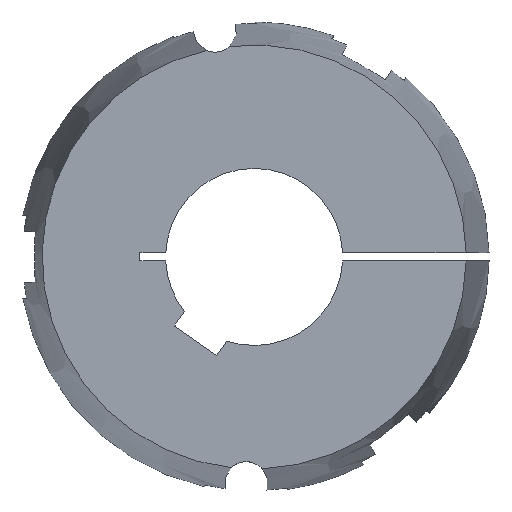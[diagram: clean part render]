
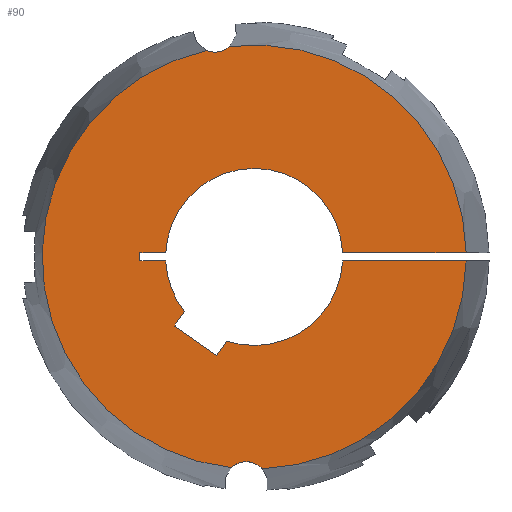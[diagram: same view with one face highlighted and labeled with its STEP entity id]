
A CAD part, left-side view. The second image highlights one B-rep face of the part: STEP entity #90.
In plain terms, the highlighted planar face has unit normal (-1, 0, 0).
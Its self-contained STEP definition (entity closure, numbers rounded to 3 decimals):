
#90 = ADVANCED_FACE( '', ( #140 ), #141, .F. );
#140 = FACE_OUTER_BOUND( '', #208, .T. );
#141 = PLANE( '', #209 );
#208 = EDGE_LOOP( '', ( #369, #370, #371, #372, #373, #374, #375, #376, #377, #378, #379, #380, #381, #382, #383, #384 ) );
#209 = AXIS2_PLACEMENT_3D( '', #385, #386, #387 );
#369 = ORIENTED_EDGE( '', *, *, #548, .F. );
#370 = ORIENTED_EDGE( '', *, *, #601, .F. );
#371 = ORIENTED_EDGE( '', *, *, #570, .T. );
#372 = ORIENTED_EDGE( '', *, *, #583, .T. );
#373 = ORIENTED_EDGE( '', *, *, #581, .T. );
#374 = ORIENTED_EDGE( '', *, *, #578, .T. );
#375 = ORIENTED_EDGE( '', *, *, #587, .T. );
#376 = ORIENTED_EDGE( '', *, *, #602, .T. );
#377 = ORIENTED_EDGE( '', *, *, #603, .T. );
#378 = ORIENTED_EDGE( '', *, *, #604, .T. );
#379 = ORIENTED_EDGE( '', *, *, #605, .T. );
#380 = ORIENTED_EDGE( '', *, *, #606, .T. );
#381 = ORIENTED_EDGE( '', *, *, #572, .T. );
#382 = ORIENTED_EDGE( '', *, *, #607, .F. );
#383 = ORIENTED_EDGE( '', *, *, #551, .F. );
#384 = ORIENTED_EDGE( '', *, *, #608, .F. );
#385 = CARTESIAN_POINT( '', ( -102., 0., 0. ) );
#386 = DIRECTION( '', ( 1., 0., 0. ) );
#387 = DIRECTION( '', ( 0., 1., 0. ) );
#548 = EDGE_CURVE( '', #649, #651, #652, .F. );
#551 = EDGE_CURVE( '', #655, #657, #658, .F. );
#570 = EDGE_CURVE( '', #693, #691, #694, .T. );
#572 = EDGE_CURVE( '', #696, #697, #698, .T. );
#578 = EDGE_CURVE( '', #709, #707, #710, .T. );
#581 = EDGE_CURVE( '', #714, #709, #715, .T. );
#583 = EDGE_CURVE( '', #691, #714, #717, .T. );
#587 = EDGE_CURVE( '', #707, #721, #723, .T. );
#601 = EDGE_CURVE( '', #693, #649, #745, .T. );
#602 = EDGE_CURVE( '', #721, #746, #747, .T. );
#603 = EDGE_CURVE( '', #746, #748, #749, .T. );
#604 = EDGE_CURVE( '', #748, #750, #751, .T. );
#605 = EDGE_CURVE( '', #750, #752, #753, .T. );
#606 = EDGE_CURVE( '', #752, #696, #754, .T. );
#607 = EDGE_CURVE( '', #657, #697, #755, .T. );
#608 = EDGE_CURVE( '', #651, #655, #756, .T. );
#649 = VERTEX_POINT( '', #815 );
#651 = VERTEX_POINT( '', #828 );
#652 = CIRCLE( '', #829, 6.75 );
#655 = VERTEX_POINT( '', #843 );
#657 = VERTEX_POINT( '', #856 );
#658 = CIRCLE( '', #857, 6.75 );
#691 = VERTEX_POINT( '', #924 );
#693 = VERTEX_POINT( '', #927 );
#694 = LINE( '', #928, #929 );
#696 = VERTEX_POINT( '', #937 );
#697 = VERTEX_POINT( '', #938 );
#698 = LINE( '', #939, #940 );
#707 = VERTEX_POINT( '', #958 );
#709 = VERTEX_POINT( '', #961 );
#710 = LINE( '', #962, #963 );
#714 = VERTEX_POINT( '', #969 );
#715 = LINE( '', #970, #971 );
#717 = CIRCLE( '', #974, 27.5 );
#721 = VERTEX_POINT( '', #979 );
#723 = LINE( '', #982, #983 );
#745 = CIRCLE( '', #1008, 65.867 );
#746 = VERTEX_POINT( '', #1009 );
#747 = CIRCLE( '', #1010, 27.5 );
#748 = VERTEX_POINT( '', #1011 );
#749 = LINE( '', #1012, #1013 );
#750 = VERTEX_POINT( '', #1014 );
#751 = LINE( '', #1015, #1016 );
#752 = VERTEX_POINT( '', #1017 );
#753 = LINE( '', #1018, #1019 );
#754 = CIRCLE( '', #1020, 27.5 );
#755 = CIRCLE( '', #1021, 65.867 );
#756 = CIRCLE( '', #1022, 65.867 );
#815 = CARTESIAN_POINT( '', ( -102., -2.538, -65.819 ) );
#828 = CARTESIAN_POINT( '', ( -102., 7.121, -65.481 ) );
#829 = AXIS2_PLACEMENT_3D( '', #1188, #1189, #1190 );
#843 = CARTESIAN_POINT( '', ( -102., 14.891, 64.162 ) );
#856 = CARTESIAN_POINT( '', ( -102., 7.611, 65.426 ) );
#857 = AXIS2_PLACEMENT_3D( '', #1191, #1192, #1193 );
#924 = CARTESIAN_POINT( '', ( -102., -27.472, -1.25 ) );
#927 = CARTESIAN_POINT( '', ( -102., -65.856, -1.25 ) );
#928 = CARTESIAN_POINT( '', ( -102., -73., -1.25 ) );
#929 = VECTOR( '', #1223, 1000. );
#937 = CARTESIAN_POINT( '', ( -102., -27.472, 1.25 ) );
#938 = CARTESIAN_POINT( '', ( -102., -65.856, 1.25 ) );
#939 = CARTESIAN_POINT( '', ( -102., 0., 1.25 ) );
#940 = VECTOR( '', #1224, 1000. );
#958 = CARTESIAN_POINT( '', ( -102., 24.793, -21.46 ) );
#961 = CARTESIAN_POINT( '', ( -102., 11.687, -30.638 ) );
#962 = CARTESIAN_POINT( '', ( -102., 11.687, -30.638 ) );
#963 = VECTOR( '', #1229, 1000. );
#969 = CARTESIAN_POINT( '', ( -102., 8.538, -26.141 ) );
#970 = CARTESIAN_POINT( '', ( -102., 8.538, -26.141 ) );
#971 = VECTOR( '', #1232, 1000. );
#974 = AXIS2_PLACEMENT_3D( '', #1234, #1235, #1236 );
#979 = CARTESIAN_POINT( '', ( -102., 21.644, -16.964 ) );
#982 = CARTESIAN_POINT( '', ( -102., 24.793, -21.46 ) );
#983 = VECTOR( '', #1242, 1000. );
#1008 = AXIS2_PLACEMENT_3D( '', #1276, #1277, #1278 );
#1009 = CARTESIAN_POINT( '', ( -102., 27.472, -1.25 ) );
#1010 = AXIS2_PLACEMENT_3D( '', #1279, #1280, #1281 );
#1011 = CARTESIAN_POINT( '', ( -102., 35.5, -1.25 ) );
#1012 = CARTESIAN_POINT( '', ( -102., 0., -1.25 ) );
#1013 = VECTOR( '', #1282, 1000. );
#1014 = CARTESIAN_POINT( '', ( -102., 35.5, 1.25 ) );
#1015 = CARTESIAN_POINT( '', ( -102., 35.5, -1.25 ) );
#1016 = VECTOR( '', #1283, 1000. );
#1017 = CARTESIAN_POINT( '', ( -102., 27.472, 1.25 ) );
#1018 = CARTESIAN_POINT( '', ( -102., 35.5, 1.25 ) );
#1019 = VECTOR( '', #1284, 1000. );
#1020 = AXIS2_PLACEMENT_3D( '', #1285, #1286, #1287 );
#1021 = AXIS2_PLACEMENT_3D( '', #1288, #1289, #1290 );
#1022 = AXIS2_PLACEMENT_3D( '', #1291, #1292, #1293 );
#1188 = CARTESIAN_POINT( '', ( -102., 2.456, -70.36 ) );
#1189 = DIRECTION( '', ( 1., 0., 0. ) );
#1190 = DIRECTION( '', ( 0., 1., 0. ) );
#1191 = CARTESIAN_POINT( '', ( -102., 12.218, 70.36 ) );
#1192 = DIRECTION( '', ( 1., 0., 0. ) );
#1193 = DIRECTION( '', ( 0., 1., 0. ) );
#1223 = DIRECTION( '', ( 0., 1., 0. ) );
#1224 = DIRECTION( '', ( 0., -1., 0. ) );
#1229 = DIRECTION( '', ( 0., 0.819, 0.574 ) );
#1232 = DIRECTION( '', ( 0., 0.574, -0.819 ) );
#1234 = CARTESIAN_POINT( '', ( -102., 0., 0. ) );
#1235 = DIRECTION( '', ( 1., 0., 0. ) );
#1236 = DIRECTION( '', ( 0., 0., -1. ) );
#1242 = DIRECTION( '', ( 0., -0.574, 0.819 ) );
#1276 = CARTESIAN_POINT( '', ( -102., 0., 0. ) );
#1277 = DIRECTION( '', ( 1., 0., 0. ) );
#1278 = DIRECTION( '', ( 0., 1., 0. ) );
#1279 = CARTESIAN_POINT( '', ( -102., 0., 0. ) );
#1280 = DIRECTION( '', ( 1., 0., 0. ) );
#1281 = DIRECTION( '', ( 0., 0., -1. ) );
#1282 = DIRECTION( '', ( 0., 1., 0. ) );
#1283 = DIRECTION( '', ( 0., 0., 1. ) );
#1284 = DIRECTION( '', ( 0., -1., 0. ) );
#1285 = CARTESIAN_POINT( '', ( -102., 0., 0. ) );
#1286 = DIRECTION( '', ( 1., 0., 0. ) );
#1287 = DIRECTION( '', ( 0., 0., -1. ) );
#1288 = CARTESIAN_POINT( '', ( -102., 0., 0. ) );
#1289 = DIRECTION( '', ( 1., 0., 0. ) );
#1290 = DIRECTION( '', ( 0., 1., 0. ) );
#1291 = CARTESIAN_POINT( '', ( -102., 0., 0. ) );
#1292 = DIRECTION( '', ( 1., 0., 0. ) );
#1293 = DIRECTION( '', ( 0., 1., 0. ) );
